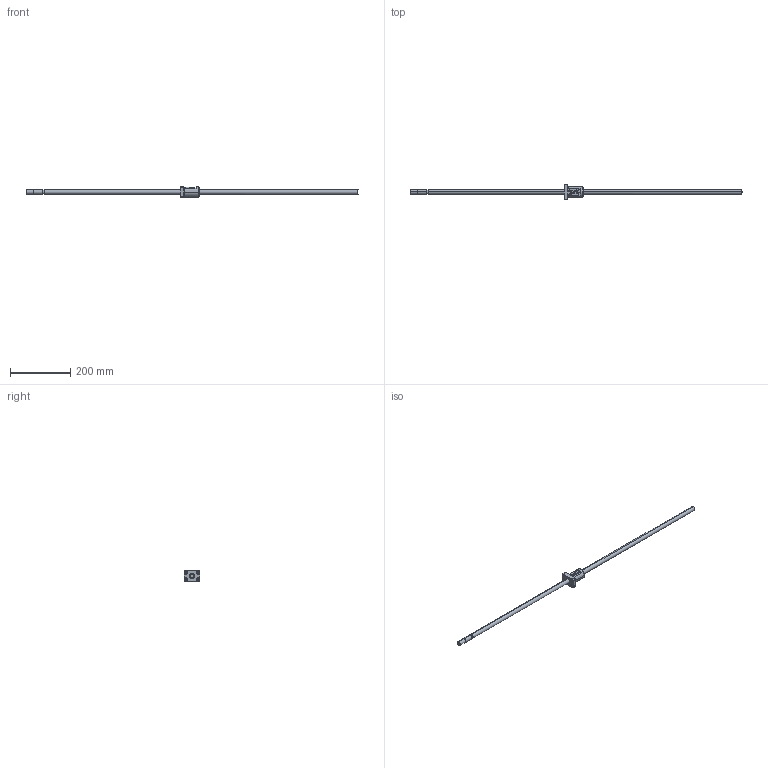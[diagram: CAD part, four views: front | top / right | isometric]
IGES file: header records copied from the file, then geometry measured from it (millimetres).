
Global section: file name: No Iges File Name specified; native system: AutoDesk Inventor R10; preprocessor: AutoDesk Inventor Iges Exporter R10; author: No Author specified; organization: No Organization specified; date: 20101224.141157; units: millimetre
Bounding box: 1100 x 50 x 34 mm (x, y, z)
Surface area: 67059.7 mm2 (no closed solid volume)
Topology: 0 solids, 0 shells, 130 faces, 948 edges, 948 vertices
Faces by surface type: bspline 130
